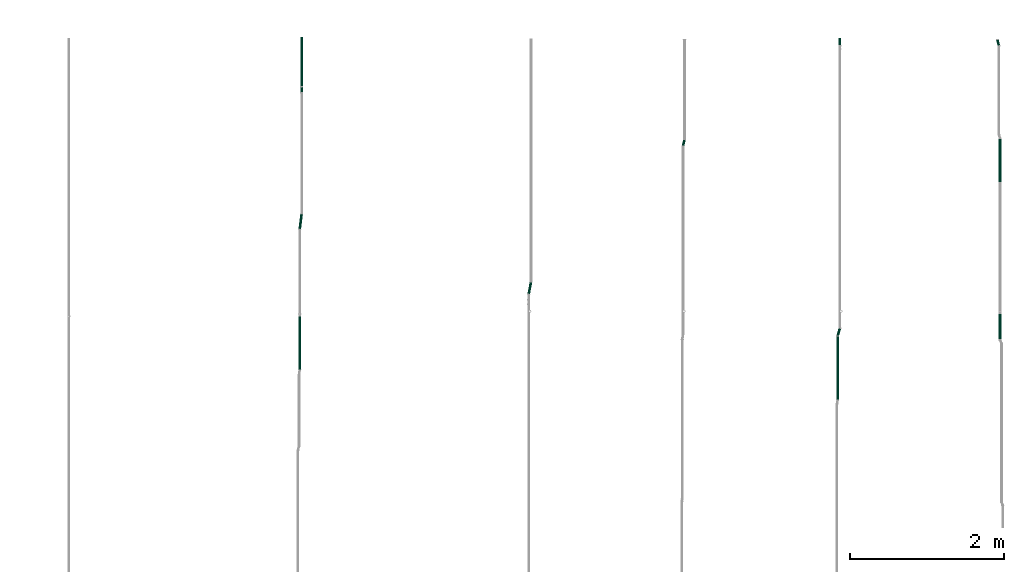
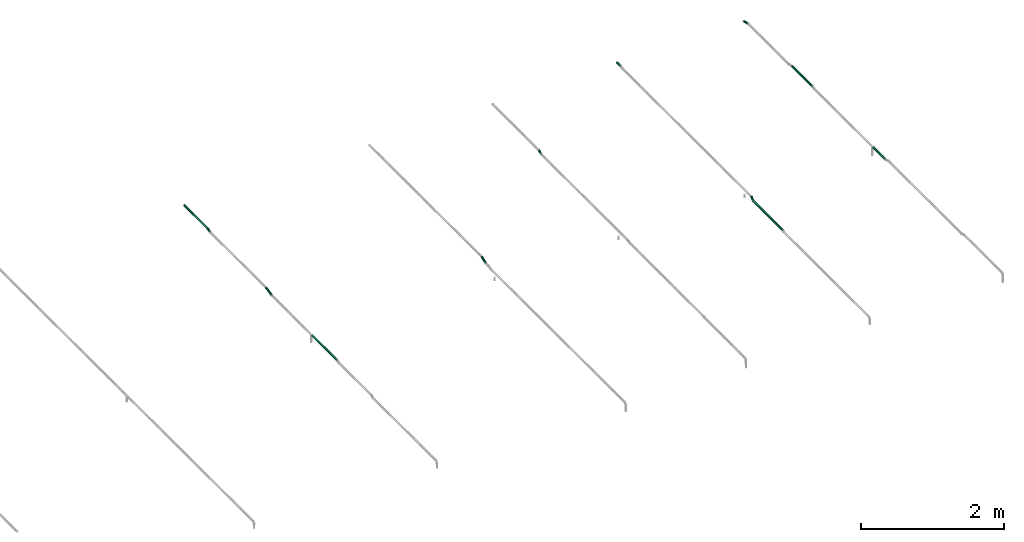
# One storey, part 4 of 32: 12 flow segments.
"""IFC2X3 building model written with IfcOpenShell, lengths in millimetres."""

from ifc_helpers import new_model, entity, si_unit, converted_unit, derived_unit, direction, frame, origin_with_axes, origin_2d_with_axis, place, context, subcontext, project, spatial, hollow_circle, extrude, source, transform, mapped, type_object, element, save


model = new_model("IFC2X3")

# Units and contexts
model_context = context("Model", 3, precision=0.01, world=frame((0.0, 4.29681676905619e-09, 0.0)), true_north=direction((4.01073788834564e-13, 1.0)))
plan_context = context("Plan", 3, precision=0.01, world=frame((0.0, 4.29681676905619e-09, 0.0)), true_north=direction((4.01073788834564e-13, 1.0)))
body_context = subcontext(model_context, "Body", "Model", "MODEL_VIEW")
ifc_project = project(units=[converted_unit("PLANEANGLEUNIT", "DEGREE", entity("IfcPositiveLengthMeasure", 0.0174532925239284), si_unit("PLANEANGLEUNIT", "RADIAN"), dimensions=[0, 0, 0, 0, 0, 0, 0]), si_unit("AREAUNIT", "SQUARE_METRE"), si_unit("LENGTHUNIT", "METRE", prefix="MILLI"), si_unit("MASSUNIT", "GRAM", prefix="KILO"), si_unit("POWERUNIT", "WATT"), si_unit("PRESSUREUNIT", "PASCAL", prefix="KILO"), si_unit("FORCEUNIT", "NEWTON", prefix="KILO"), si_unit("ELECTRICVOLTAGEUNIT", "VOLT"), si_unit("ELECTRICCURRENTUNIT", "AMPERE"), si_unit("THERMODYNAMICTEMPERATUREUNIT", "DEGREE_CELSIUS"), si_unit("TIMEUNIT", "SECOND"), si_unit("VOLUMEUNIT", "CUBIC_METRE"), derived_unit("LINEARVELOCITYUNIT", [(si_unit("LENGTHUNIT", "METRE"), 1), (si_unit("TIMEUNIT", "SECOND"), -1)]), derived_unit("VOLUMETRICFLOWRATEUNIT", [(si_unit("VOLUMEUNIT", "CUBIC_METRE"), 1), (si_unit("TIMEUNIT", "SECOND"), -1)]), derived_unit("THERMALTRANSMITTANCEUNIT", [(si_unit("POWERUNIT", "WATT"), 1), (si_unit("THERMODYNAMICTEMPERATUREUNIT", "KELVIN"), -1), (si_unit("AREAUNIT", "SQUARE_METRE"), -1)]), derived_unit("SOUNDPRESSUREUNIT", [(si_unit("PRESSUREUNIT", "PASCAL"), 1)])], contexts=[model_context, plan_context])

# Site, building, storey
site_placement = place(None, frame((0.0, -4.29681676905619e-09, 0.0), z_axis=(0.0, 0.0, 1.0), x_axis=(1.0, 0.0, 0.0)))
site = spatial("IfcSite", under=ifc_project, at=site_placement, CompositionType="ELEMENT")
building_placement = place(site_placement, frame((0.0, 4.29681676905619e-09, 0.0), z_axis=(0.0, 0.0, 1.0), x_axis=(1.0, 0.0, 0.0)))
building = spatial("IfcBuilding", under=site, at=building_placement, Name="mc-building", CompositionType="ELEMENT")
storey_placement = place(building_placement, frame((0.0, 0.0, 205200.0), z_axis=(0.0, 0.0, 1.0), x_axis=(1.0, 0.0, 0.0)))
storey = spatial("IfcBuildingStorey", under=building, at=storey_placement, Name="Nivå D + 1,2 m", CompositionType="ELEMENT", Elevation=205200.0)

# Flow segments
pipe_segment_type = type_object("IfcPipeSegmentType", Name="Stålrør normaltykke", PredefinedType="RIGIDSEGMENT")
shared_shape_1 = source(origin_with_axes(), body_context, "Body", "SweptSolid", [
    extrude(hollow_circle(Radius=16.9, WallThickness=2.0, at=origin_2d_with_axis()), frame((0.0, 0.0, 0.0), z_axis=(1.0, 0.0, 0.0), x_axis=(0.0, 1.0, 0.0)), (0.0, 0.0, 1.0), 100.2),
])
flow_segment_1_placement = place(storey_placement, frame((345511.19951, 463737.67974, 4434.19579999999), z_axis=(0.0, 0.0, 1.0), x_axis=(-0.274720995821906, -0.961523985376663, 0.0)))
element("IfcFlowSegment", 1, at=flow_segment_1_placement, inside=storey, type_object=pipe_segment_type, Name="Stålrør normaltykke", context=body_context, shape_type="MappedRepresentation", body=[
    mapped(shared_shape_1, transform((0.0, 0.0, 0.0), scale=1.0)),
])
shared_shape_2 = source(origin_with_axes(), body_context, "Body", "SweptSolid", [
    extrude(hollow_circle(Radius=16.9, WallThickness=2.0, at=origin_2d_with_axis()), frame((0.0, 0.0, 0.0), z_axis=(1.0, 0.0, 0.0), x_axis=(0.0, 1.0, 0.0)), (0.0, 0.0, 1.0), 328.9),
])
flow_segment_2_placement = place(storey_placement, frame((347592.5, 463925.96745, 4433.60793), z_axis=(0.0, 0.0, 1.0), x_axis=(0.0, -1.0, 0.0)))
element("IfcFlowSegment", 2, at=flow_segment_2_placement, inside=storey, type_object=pipe_segment_type, Name="Stålrør normaltykke", context=body_context, shape_type="MappedRepresentation", body=[
    mapped(shared_shape_2, transform((0.0, 0.0, 0.0), scale=1.0)),
])
shared_shape_3 = source(origin_with_axes(), body_context, "Body", "SweptSolid", [
    extrude(hollow_circle(Radius=16.9, WallThickness=2.0, at=origin_2d_with_axis()), frame((0.0, 0.0, 0.0), z_axis=(1.0, 0.0, 0.0), x_axis=(0.0, 1.0, 0.0)), (0.0, 0.0, 1.0), 96.3),
])
flow_segment_3_placement = place(storey_placement, frame((345512.5, 467414.74466, 4444.43145999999), z_axis=(0.0, 0.0, 1.0), x_axis=(0.0, 1.0, 0.0)))
element("IfcFlowSegment", 3, at=flow_segment_3_placement, inside=storey, type_object=pipe_segment_type, Name="Stålrør normaltykke", context=body_context, shape_type="MappedRepresentation", body=[
    mapped(shared_shape_3, transform((0.0, 0.0, 0.0), scale=1.0)),
])
shared_shape_4 = source(origin_with_axes(), body_context, "Body", "SweptSolid", [
    extrude(hollow_circle(Radius=16.9, WallThickness=2.0, at=origin_2d_with_axis()), frame((0.0, 0.0, 0.0), z_axis=(1.0, 0.0, 0.0), x_axis=(0.0, 1.0, 0.0)), (0.0, 0.0, 1.0), 635.8),
])
flow_segment_4_placement = place(storey_placement, frame((338517.5, 467521.03146, 4444.43145999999), z_axis=(0.0, 0.0, 1.0), x_axis=(0.0, -1.0, 0.0)))
element("IfcFlowSegment", 4, at=flow_segment_4_placement, inside=storey, type_object=pipe_segment_type, Name="Stålrør normaltykke", context=body_context, shape_type="MappedRepresentation", body=[
    mapped(shared_shape_4, transform((0.0, 0.0, 0.0), scale=1.0)),
])
shared_shape_5 = source(origin_with_axes(), body_context, "Body", "SweptSolid", [
    extrude(hollow_circle(Radius=16.9, WallThickness=2.0, at=origin_2d_with_axis()), frame((0.0, 0.0, 0.0), z_axis=(1.0, 0.0, 0.0), x_axis=(0.0, 1.0, 0.0)), (0.0, 0.0, 1.0), 197.3),
])
flow_segment_5_placement = place(storey_placement, frame((338517.23899, 465223.97939, 4424.13733999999), z_axis=(0.0, 0.0, 1.0), x_axis=(-0.124034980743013, -0.992277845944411, 0.0)))
element("IfcFlowSegment", 5, at=flow_segment_5_placement, inside=storey, type_object=pipe_segment_type, Name="Stålrør normaltykke", context=body_context, shape_type="MappedRepresentation", body=[
    mapped(shared_shape_5, transform((0.0, 0.0, 0.0), scale=1.0)),
])
shared_shape_6 = source(origin_with_axes(), body_context, "Body", "SweptSolid", [
    extrude(hollow_circle(Radius=16.9, WallThickness=2.0, at=origin_2d_with_axis()), frame((0.0, 0.0, 0.0), z_axis=(1.0, 0.0, 0.0), x_axis=(0.0, 1.0, 0.0)), (0.0, 0.0, 1.0), 687.2),
])
flow_segment_6_placement = place(storey_placement, frame((338492.5, 463888.46745, 4424.13733999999), z_axis=(0.0, 0.0, 1.0), x_axis=(0.0, -1.0, 0.0)))
element("IfcFlowSegment", 6, at=flow_segment_6_placement, inside=storey, type_object=pipe_segment_type, Name="Stålrør normaltykke", context=body_context, shape_type="MappedRepresentation", body=[
    mapped(shared_shape_6, transform((0.0, 0.0, 0.0), scale=1.0)),
])
shared_shape_7 = source(origin_with_axes(), body_context, "Body", "SweptSolid", [
    extrude(hollow_circle(Radius=16.9, WallThickness=2.0, at=origin_2d_with_axis()), frame((0.0, 0.0, 0.0), z_axis=(1.0, 0.0, 0.0), x_axis=(0.0, 1.0, 0.0)), (0.0, 0.0, 1.0), 75.4),
])
flow_segment_7_placement = place(storey_placement, frame((338517.5, 466803.89172, 4425.14652000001), z_axis=(0.0, -0.242535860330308, 0.970142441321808), x_axis=(0.0, 0.970142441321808, 0.242535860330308)))
element("IfcFlowSegment", 7, at=flow_segment_7_placement, inside=storey, type_object=pipe_segment_type, Name="Stålrør normaltykke", context=body_context, shape_type="MappedRepresentation", body=[
    mapped(shared_shape_7, transform((0.0, 0.0, 0.0), scale=1.0)),
])
shared_shape_8 = source(origin_with_axes(), body_context, "Body", "SweptSolid", [
    extrude(hollow_circle(Radius=16.9, WallThickness=2.0, at=origin_2d_with_axis()), frame((0.0, 0.0, 0.0), z_axis=(1.0, 0.0, 0.0), x_axis=(0.0, 1.0, 0.0)), (0.0, 0.0, 1.0), 156.5),
])
flow_segment_8_placement = place(storey_placement, frame((341496.92108, 464337.94388, 4444.43145999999), z_axis=(0.0, 0.0, 1.0), x_axis=(-0.184289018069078, -0.982872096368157, 0.0)))
element("IfcFlowSegment", 8, at=flow_segment_8_placement, inside=storey, type_object=pipe_segment_type, Name="Stålrør normaltykke", context=body_context, shape_type="MappedRepresentation", body=[
    mapped(shared_shape_8, transform((0.0, 0.0, 0.0), scale=1.0)),
])
shared_shape_9 = source(origin_with_axes(), body_context, "Body", "SweptSolid", [
    extrude(hollow_circle(Radius=16.9, WallThickness=2.0, at=origin_2d_with_axis()), frame((0.0, 0.0, 0.0), z_axis=(1.0, 0.0, 0.0), x_axis=(0.0, 1.0, 0.0)), (0.0, 0.0, 1.0), 79.5),
])
flow_segment_9_placement = place(storey_placement, frame((343473.3985, 466109.85008, 4444.43145999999), z_axis=(0.0, 0.0, 1.0), x_axis=(0.229039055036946, 0.973417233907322, 0.0)))
element("IfcFlowSegment", 9, at=flow_segment_9_placement, inside=storey, type_object=pipe_segment_type, Name="Stålrør normaltykke", context=body_context, shape_type="MappedRepresentation", body=[
    mapped(shared_shape_9, transform((0.0, 0.0, 0.0), scale=1.0)),
])
shared_shape_10 = source(origin_with_axes(), body_context, "Body", "SweptSolid", [
    extrude(hollow_circle(Radius=16.9, WallThickness=2.0, at=origin_2d_with_axis()), frame((0.0, 0.0, 0.0), z_axis=(1.0, 0.0, 0.0), x_axis=(0.0, 1.0, 0.0)), (0.0, 0.0, 1.0), 821.9),
])
flow_segment_10_placement = place(storey_placement, frame((345482.5, 462810.57832, 4434.19579999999), z_axis=(0.0, 0.0, 1.0), x_axis=(0.0, 1.0, 0.0)))
element("IfcFlowSegment", 10, at=flow_segment_10_placement, inside=storey, type_object=pipe_segment_type, Name="Stålrør normaltykke", context=body_context, shape_type="MappedRepresentation", body=[
    mapped(shared_shape_10, transform((0.0, 0.0, 0.0), scale=1.0)),
])
shared_shape_11 = source(origin_with_axes(), body_context, "Body", "SweptSolid", [
    extrude(hollow_circle(Radius=16.9, WallThickness=2.0, at=origin_2d_with_axis()), frame((0.0, 0.0, 0.0), z_axis=(1.0, 0.0, 0.0), x_axis=(0.0, 1.0, 0.0)), (0.0, 0.0, 1.0), 79.4),
])
flow_segment_11_placement = place(storey_placement, frame((347558.39996, 467489.67386, 4444.43145999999), z_axis=(0.0, 0.0, 1.0), x_axis=(0.229222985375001, -0.973373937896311, 0.0)))
element("IfcFlowSegment", 11, at=flow_segment_11_placement, inside=storey, type_object=pipe_segment_type, Name="Stålrør normaltykke", context=body_context, shape_type="MappedRepresentation", body=[
    mapped(shared_shape_11, transform((0.0, 0.0, 0.0), scale=1.0)),
])
shared_shape_12 = source(origin_with_axes(), body_context, "Body", "SweptSolid", [
    extrude(hollow_circle(Radius=16.9, WallThickness=2.0, at=origin_2d_with_axis()), frame((0.0, 0.0, 0.0), z_axis=(1.0, 0.0, 0.0), x_axis=(0.0, 1.0, 0.0)), (0.0, 0.0, 1.0), 561.7),
])
flow_segment_12_placement = place(storey_placement, frame((347592.5, 465637.27775, 4444.43145999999), z_axis=(0.0, 0.0, 1.0), x_axis=(0.0, 1.0, 0.0)))
element("IfcFlowSegment", 12, at=flow_segment_12_placement, inside=storey, type_object=pipe_segment_type, Name="Stålrør normaltykke", context=body_context, shape_type="MappedRepresentation", body=[
    mapped(shared_shape_12, transform((0.0, 0.0, 0.0), scale=1.0)),
])

save(model, "model.ifc")
